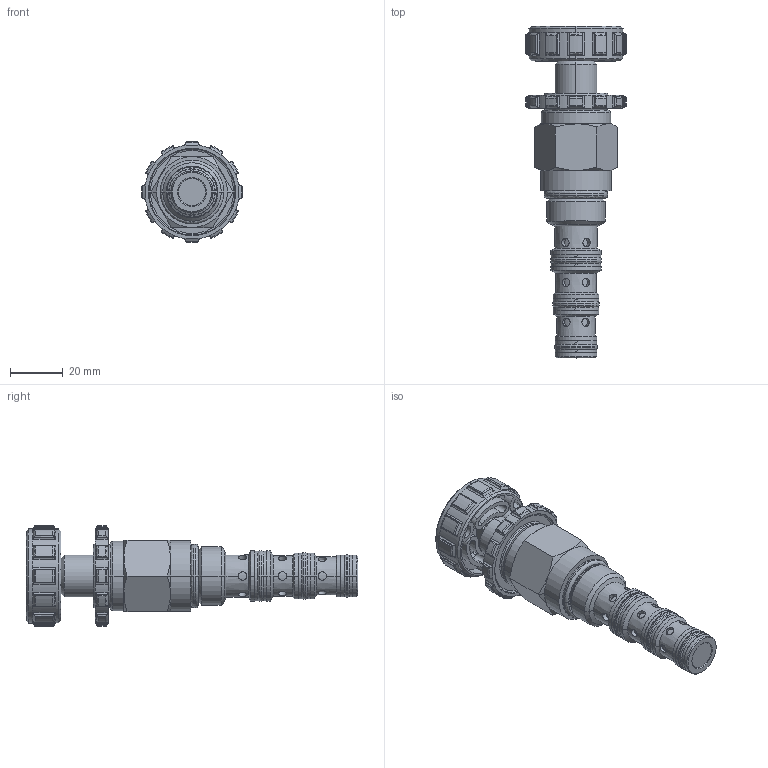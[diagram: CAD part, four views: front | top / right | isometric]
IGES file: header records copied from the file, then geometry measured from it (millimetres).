
Start section:  PTC IGES file: DCPS-10-A-K.igs
Global section: file name: DCPS-10-A-K.igs; native system: Creo Elements/Pro by Parametric Technology Corporation; preprocessor: 2015070; author: torrese; organization: Unknown; date: 20151221.150629; units: inch
Bounding box: 38.07 x 125.55 x 38.07 mm (x, y, z)
Volume: 49099.1 mm3; surface area: 18473.3 mm2
Topology: 1 solids, 1 shells, 629 faces, 1613 edges, 1015 vertices
Faces by surface type: revolution 484, bspline 145
